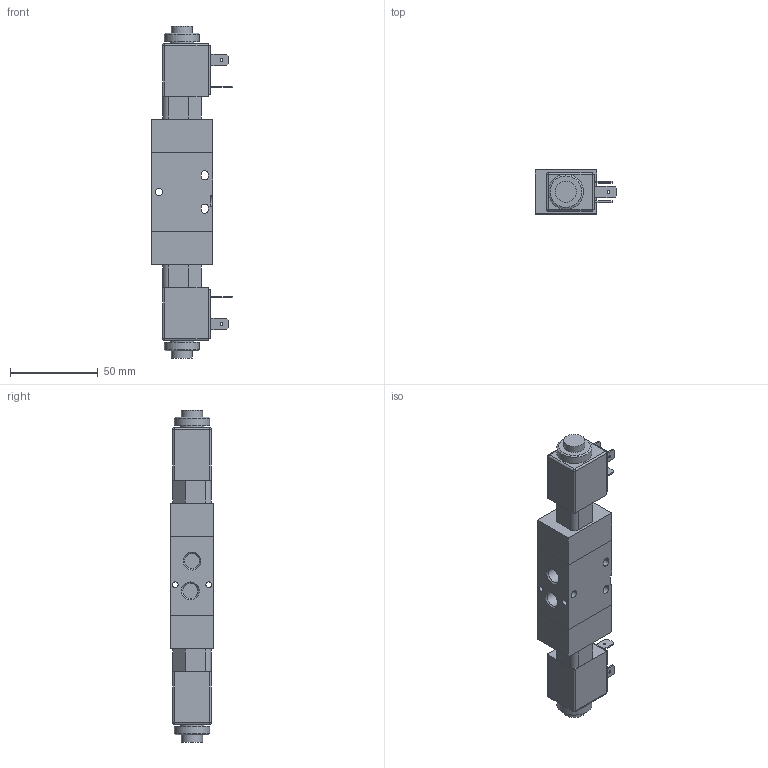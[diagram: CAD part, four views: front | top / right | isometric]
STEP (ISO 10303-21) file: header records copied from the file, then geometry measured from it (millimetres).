
FILE_DESCRIPTION((''),'2;1');
FILE_NAME('I:\Area Tecnica\Disegni\VARIE-3D\Componenti\TECNOECO\3D\3 VIE\T488_32_0_0E_##.stp','2008-10-20T11:11:53',('rivolro1'),(''),'Autodesk Inventor 2009','Autodesk Inventor 2009','');
FILE_SCHEMA(('AUTOMOTIVE_DESIGN { 1 0 10303 214 1 1 1 1 }'));
Length unit declared in the file: millimetre
Products named in the file (3): T488_32_0_0E_##; T488_32_0_0E; MB
Assembly tree (3 placements, depth 2):
  T488_32_0_0E_##
    T488_32_0_0E
    MB  x2
Bounding box: 46.5 x 25 x 189 mm (x, y, z)
Volume: 120213.6 mm3; surface area: 31129.6 mm2
Topology: 3 solids, 3 shells, 206 faces, 474 edges, 307 vertices
Faces by surface type: plane 109, bspline 57, cylinder 34, sphere 4, cone 2
Full cylindrical faces by diameter (mm): 4.2 x1, 7.4 x1, 7.8 x1, 8 x1, 8.2 x2, 9.8 x1, 10.1 x1, 10.2 x2, 10.7 x1, 12 x1, 13.5 x1, 16.2 x2, 20 x1
Entity records: 4722 total; most frequent: CARTESIAN_POINT 1270, DIRECTION 625, ORIENTED_EDGE 598, EDGE_CURVE 299, EDGE_LOOP 249, VERTEX_POINT 222, AXIS2_PLACEMENT_3D 215, VECTOR 195
